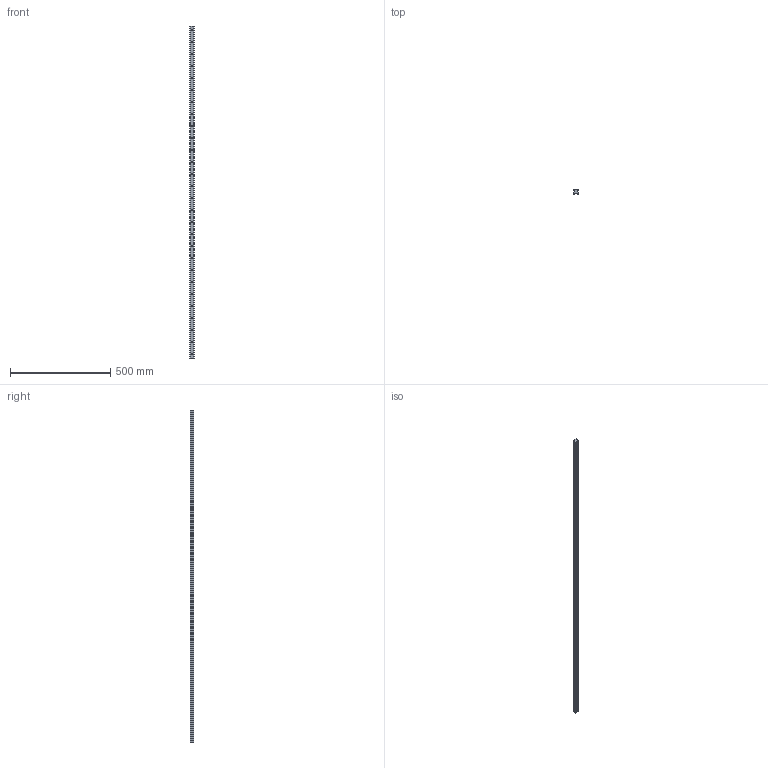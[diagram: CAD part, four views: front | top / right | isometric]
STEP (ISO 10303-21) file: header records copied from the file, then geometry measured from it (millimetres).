
FILE_DESCRIPTION (( 'STEP AP203' ), '1' );
FILE_NAME ('L1016.BL25-1660.step', '2019-06-12T12:08:29', ( '' ), ( '' ), 'SwSTEP 2.0', 'SolidWorks 2017', '' );
FILE_SCHEMA (( 'CONFIG_CONTROL_DESIGN' ));
Length unit declared in the file: millimetre
Products named in the file (1): L1016.BL25-1660
Bounding box: 23 x 19.2 x 1660 mm (x, y, z)
Volume: 611556.8 mm3; surface area: 157467.4 mm2
Topology: 1 solids, 1 shells, 166 faces, 408 edges, 272 vertices
Faces by surface type: cylinder 116, plane 50
Entity records: 5213 total; most frequent: DIRECTION 974, CARTESIAN_POINT 847, ORIENTED_EDGE 816, EDGE_CURVE 408, AXIS2_PLACEMENT_3D 399, VERTEX_POINT 272, EDGE_LOOP 250, CIRCLE 232
